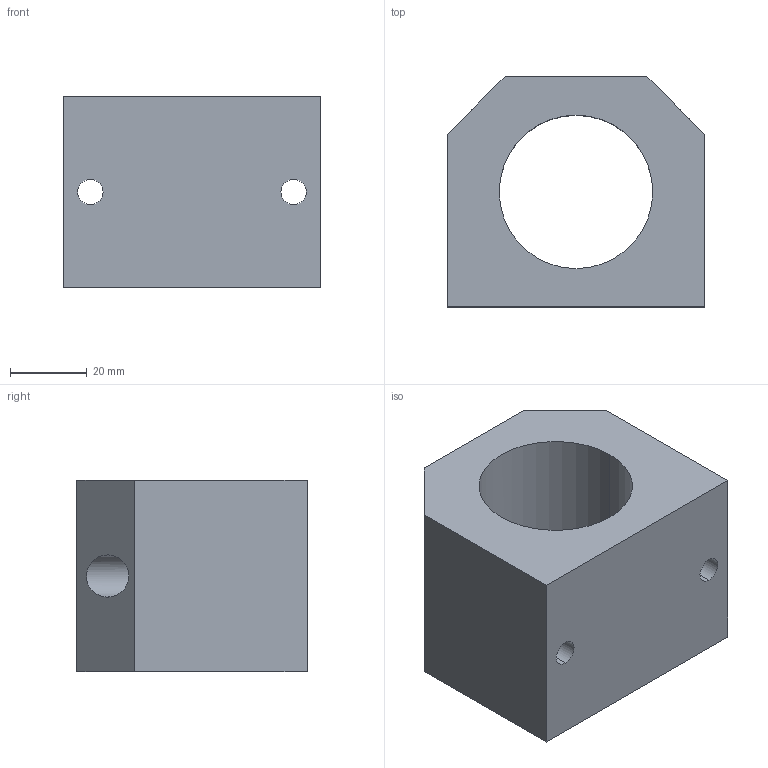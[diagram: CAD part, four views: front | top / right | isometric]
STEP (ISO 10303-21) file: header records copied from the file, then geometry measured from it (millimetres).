
FILE_DESCRIPTION (( 'STEP AP214' ), '1' );
FILE_NAME ('KGC27-30.step', '2020-03-04T13:07:07', ( '' ), ( '' ), 'SwSTEP 2.0', 'SolidWorks 2019', '' );
FILE_SCHEMA (( 'AUTOMOTIVE_DESIGN' ));
Length unit declared in the file: millimetre
Products named in the file (1): KGC27-30
Bounding box: 67 x 60 x 50 mm (x, y, z)
Volume: 120174 mm3; surface area: 25904 mm2
Topology: 1 solids, 1 shells, 22 faces, 54 edges, 36 vertices
Faces by surface type: cylinder 12, plane 10
Entity records: 834 total; most frequent: CARTESIAN_POINT 191, DIRECTION 112, ORIENTED_EDGE 108, EDGE_CURVE 54, AXIS2_PLACEMENT_3D 41, VERTEX_POINT 36, EDGE_LOOP 32, VECTOR 30
